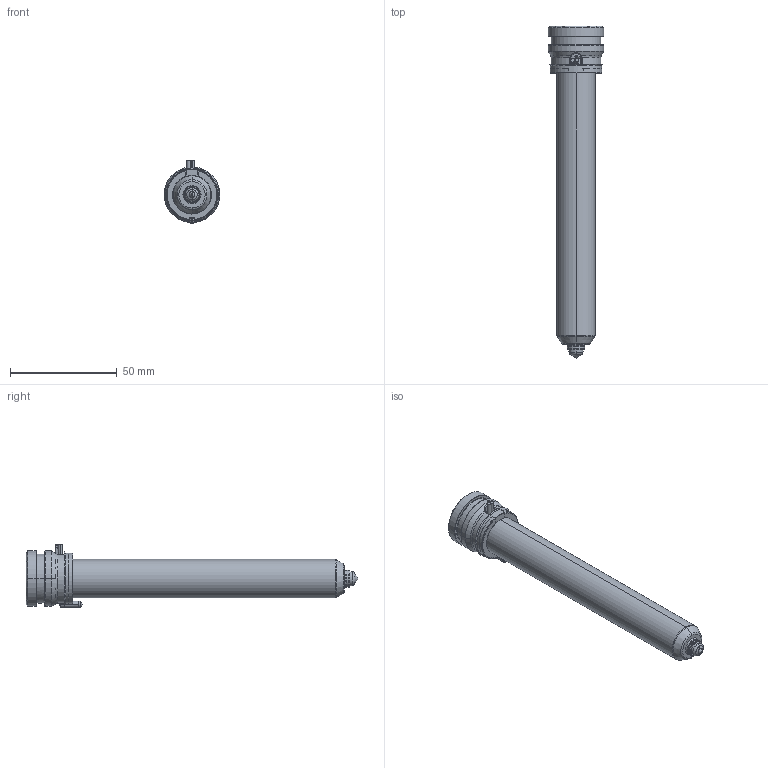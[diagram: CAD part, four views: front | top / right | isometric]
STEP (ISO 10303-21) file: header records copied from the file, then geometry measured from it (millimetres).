
FILE_DESCRIPTION((''),'2;1');
FILE_NAME('TH18137_5-A-1B15-PK-JG','2023-12-14T',('umhib'),('Thermoplay S.p.A.'),'PRO/ENGINEER BY PARAMETRIC TECHNOLOGY CORPORATION, 2017170','PRO/ENGINEER BY PARAMETRIC TECHNOLOGY CORPORATION, 2017170','');
FILE_SCHEMA(('CONFIG_CONTROL_DESIGN'));
Length unit declared in the file: millimetre
Products named in the file (1): TH18137_5-A-1B15-PK-JG
Bounding box: 26 x 155.5 x 29.5 mm (x, y, z)
Volume: 31331.5 mm3; surface area: 22808.2 mm2
Topology: 1 solids, 2 shells, 398 faces, 1036 edges, 643 vertices
Faces by surface type: cylinder 151, plane 85, cone 68, torus 56, bspline 24, sphere 12, extrusion 2
Entity records: 18088 total; most frequent: CARTESIAN_POINT 6123, ORIENTED_EDGE 2048, DIRECTION 2031, EDGE_CURVE 1026, AXIS2_PLACEMENT_3D 815, VERTEX_POINT 643, CIRCLE 442, EDGE_LOOP 418
